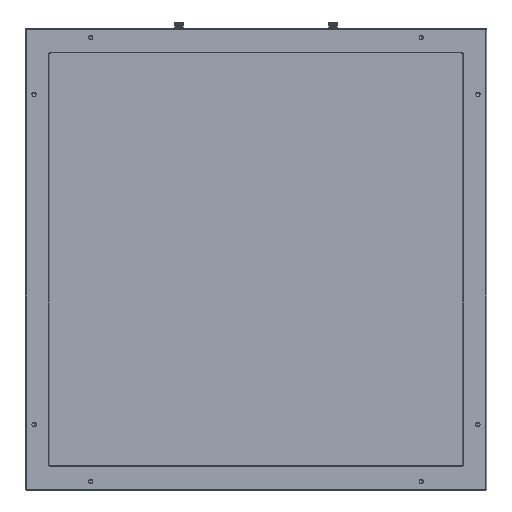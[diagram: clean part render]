
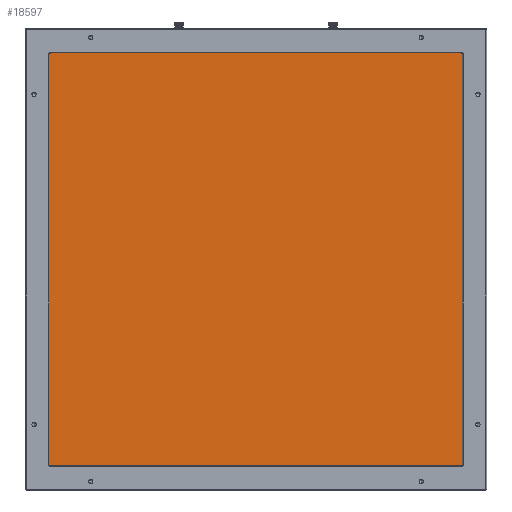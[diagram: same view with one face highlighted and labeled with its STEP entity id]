
A CAD part, front view. The second image highlights one B-rep face of the part: STEP entity #18597.
In plain terms, the highlighted planar face has unit normal (0, -1, 0).
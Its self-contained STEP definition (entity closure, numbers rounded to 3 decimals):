
#2115 = AXIS2_PLACEMENT_3D ( 'NONE', #7211, #11118, #11093 ) ;
#7211 = CARTESIAN_POINT ( 'NONE',  ( 300., 0., -300. ) ) ;
#7491 = CARTESIAN_POINT ( 'NONE',  ( -300., 0., -300. ) ) ;
#7495 = CARTESIAN_POINT ( 'NONE',  ( 300., 0., -300. ) ) ;
#7539 = CARTESIAN_POINT ( 'NONE',  ( -300., 0., 300. ) ) ;
#7584 = CARTESIAN_POINT ( 'NONE',  ( 300., 0., 300. ) ) ;
#8280 = PLANE ( 'NONE',  #2115 ) ;
#9327 = FACE_OUTER_BOUND ( 'NONE', #20411, .T. ) ;
#9845 = VECTOR ( 'NONE', #12750, 1000. ) ;
#9851 = LINE ( 'NONE', #12786, #9845 ) ;
#9895 = LINE ( 'NONE', #14251, #9896 ) ;
#9896 = VECTOR ( 'NONE', #14318, 1000. ) ;
#9899 = LINE ( 'NONE', #14323, #9901 ) ;
#9901 = VECTOR ( 'NONE', #14297, 1000. ) ;
#9972 = LINE ( 'NONE', #13253, #9995 ) ;
#9995 = VECTOR ( 'NONE', #13244, 1000. ) ;
#11093 = DIRECTION ( 'NONE',  ( 0., 0., -1. ) ) ;
#11118 = DIRECTION ( 'NONE',  ( 0., -1., 0. ) ) ;
#12750 = DIRECTION ( 'NONE',  ( 0., 0., -1. ) ) ;
#12786 = CARTESIAN_POINT ( 'NONE',  ( 300., 0., 300. ) ) ;
#13244 = DIRECTION ( 'NONE',  ( 1., 0., 0. ) ) ;
#13253 = CARTESIAN_POINT ( 'NONE',  ( -300., 0., 300. ) ) ;
#14251 = CARTESIAN_POINT ( 'NONE',  ( -300., 0., -300. ) ) ;
#14297 = DIRECTION ( 'NONE',  ( 0., 0., 1. ) ) ;
#14318 = DIRECTION ( 'NONE',  ( -1., 0., 0. ) ) ;
#14323 = CARTESIAN_POINT ( 'NONE',  ( -300., 0., 300. ) ) ;
#14583 = VERTEX_POINT ( 'NONE', #7495 ) ;
#14587 = VERTEX_POINT ( 'NONE', #7491 ) ;
#14599 = VERTEX_POINT ( 'NONE', #7539 ) ;
#14611 = VERTEX_POINT ( 'NONE', #7584 ) ;
#18597 = ADVANCED_FACE ( 'NONE', ( #9327 ), #8280, .T. ) ;
#18988 = EDGE_CURVE ( 'NONE', #14611, #14583, #9851, .T. ) ;
#19033 = EDGE_CURVE ( 'NONE', #14583, #14587, #9895, .T. ) ;
#19037 = EDGE_CURVE ( 'NONE', #14587, #14599, #9899, .T. ) ;
#19089 = EDGE_CURVE ( 'NONE', #14599, #14611, #9972, .T. ) ;
#20268 = ORIENTED_EDGE ( 'NONE', *, *, #19033, .F. ) ;
#20270 = ORIENTED_EDGE ( 'NONE', *, *, #19037, .F. ) ;
#20335 = ORIENTED_EDGE ( 'NONE', *, *, #18988, .F. ) ;
#20367 = ORIENTED_EDGE ( 'NONE', *, *, #19089, .F. ) ;
#20411 = EDGE_LOOP ( 'NONE', ( #20335, #20367, #20270, #20268 ) ) ;
